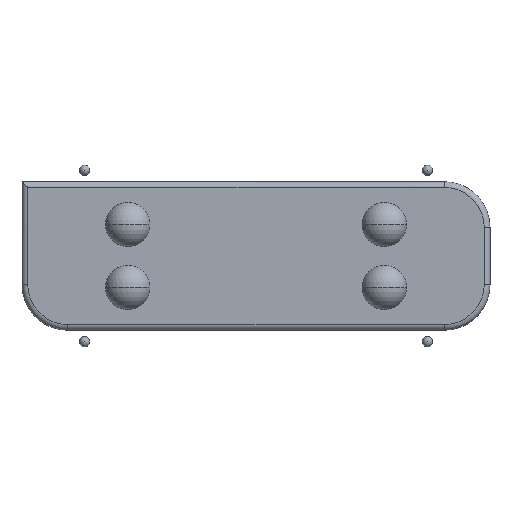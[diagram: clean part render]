
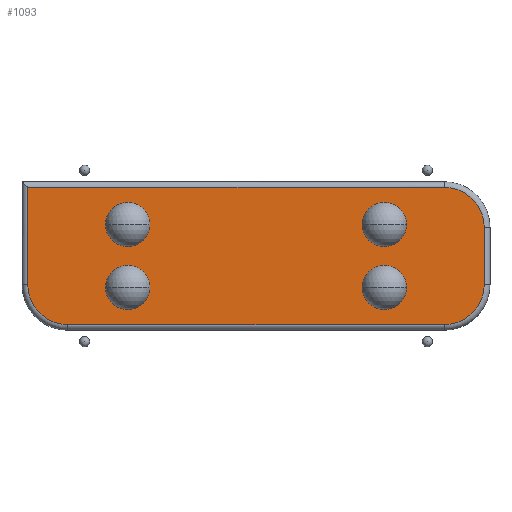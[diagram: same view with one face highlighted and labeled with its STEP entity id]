
A CAD part, front view. The second image highlights one B-rep face of the part: STEP entity #1093.
In plain terms, the highlighted planar face has unit normal (0, -1, 0).
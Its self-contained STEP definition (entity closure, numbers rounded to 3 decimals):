
#546 = CARTESIAN_POINT ( 'NONE',  ( -8.368, 0.762, -3.046 ) ) ;
#547 = VERTEX_POINT ( 'NONE', #546 ) ;
#563 = CARTESIAN_POINT ( 'NONE',  ( 8.368, 0.762, -3.046 ) ) ;
#564 = VERTEX_POINT ( 'NONE', #563 ) ;
#572 = CARTESIAN_POINT ( 'NONE',  ( -10.4, 0.762, -3.046 ) ) ;
#573 = DIRECTION ( 'NONE',  ( 1., 0., 0. ) ) ;
#574 = VECTOR ( 'NONE', #573, 1000. ) ;
#575 = LINE ( 'NONE', #572, #574 ) ;
#576 = EDGE_CURVE ( 'NONE', #547, #564, #575, .T. ) ;
#730 = CARTESIAN_POINT ( 'NONE',  ( 6.685, 0.762, 1.399 ) ) ;
#731 = VERTEX_POINT ( 'NONE', #730 ) ;
#739 = CARTESIAN_POINT ( 'NONE',  ( 4.717, 0.762, 1.399 ) ) ;
#740 = VERTEX_POINT ( 'NONE', #739 ) ;
#748 = CARTESIAN_POINT ( 'NONE',  ( 5.701, 0.762, 1.399 ) ) ;
#749 = DIRECTION ( 'NONE',  ( 0., -1., 0. ) ) ;
#750 = DIRECTION ( 'NONE',  ( 0., 0., 1. ) ) ;
#751 = AXIS2_PLACEMENT_3D ( 'NONE', #748, #749, #750 ) ;
#752 = CIRCLE ( 'NONE', #751, 0.984) ;
#753 = EDGE_CURVE ( 'NONE', #740, #731, #752, .T. ) ;
#882 = CARTESIAN_POINT ( 'NONE',  ( 5.701, 0.762, 1.399 ) ) ;
#883 = DIRECTION ( 'NONE',  ( 0., -1., 0. ) ) ;
#884 = DIRECTION ( 'NONE',  ( 0., 0., 1. ) ) ;
#885 = AXIS2_PLACEMENT_3D ( 'NONE', #882, #883, #884 ) ;
#886 = CIRCLE ( 'NONE', #885, 0.984) ;
#887 = EDGE_CURVE ( 'NONE', #731, #740, #886, .T. ) ;
#899 = CARTESIAN_POINT ( 'NONE',  ( -4.717, 0.762, 1.399 ) ) ;
#900 = VERTEX_POINT ( 'NONE', #899 ) ;
#908 = CARTESIAN_POINT ( 'NONE',  ( -6.685, 0.762, 1.399 ) ) ;
#909 = VERTEX_POINT ( 'NONE', #908 ) ;
#917 = CARTESIAN_POINT ( 'NONE',  ( -5.701, 0.762, 1.399 ) ) ;
#918 = DIRECTION ( 'NONE',  ( 0., -1., 0. ) ) ;
#919 = DIRECTION ( 'NONE',  ( 0., 0., 1. ) ) ;
#920 = AXIS2_PLACEMENT_3D ( 'NONE', #917, #918, #919 ) ;
#921 = CIRCLE ( 'NONE', #920, 0.984) ;
#922 = EDGE_CURVE ( 'NONE', #909, #900, #921, .T. ) ;
#934 = CARTESIAN_POINT ( 'NONE',  ( 4.717, 0.762, -1.399 ) ) ;
#935 = VERTEX_POINT ( 'NONE', #934 ) ;
#943 = CARTESIAN_POINT ( 'NONE',  ( 6.685, 0.762, -1.399 ) ) ;
#944 = VERTEX_POINT ( 'NONE', #943 ) ;
#952 = CARTESIAN_POINT ( 'NONE',  ( 5.701, 0.762, -1.399 ) ) ;
#953 = DIRECTION ( 'NONE',  ( 0., -1., 0. ) ) ;
#954 = DIRECTION ( 'NONE',  ( 0., 0., 1. ) ) ;
#955 = AXIS2_PLACEMENT_3D ( 'NONE', #952, #953, #954 ) ;
#956 = CIRCLE ( 'NONE', #955, 0.984) ;
#957 = EDGE_CURVE ( 'NONE', #944, #935, #956, .T. ) ;
#969 = CARTESIAN_POINT ( 'NONE',  ( -4.717, 0.762, -1.399 ) ) ;
#970 = VERTEX_POINT ( 'NONE', #969 ) ;
#978 = CARTESIAN_POINT ( 'NONE',  ( -6.685, 0.762, -1.399 ) ) ;
#979 = VERTEX_POINT ( 'NONE', #978 ) ;
#987 = CARTESIAN_POINT ( 'NONE',  ( -5.701, 0.762, -1.399 ) ) ;
#988 = DIRECTION ( 'NONE',  ( 0., -1., 0. ) ) ;
#989 = DIRECTION ( 'NONE',  ( 0., 0., 1. ) ) ;
#990 = AXIS2_PLACEMENT_3D ( 'NONE', #987, #988, #989 ) ;
#991 = CIRCLE ( 'NONE', #990, 0.984) ;
#992 = EDGE_CURVE ( 'NONE', #979, #970, #991, .T. ) ;
#1002 = CARTESIAN_POINT ( 'NONE',  ( -5.701, 0.762, 1.399 ) ) ;
#1003 = DIRECTION ( 'NONE',  ( 0., -1., 0. ) ) ;
#1004 = DIRECTION ( 'NONE',  ( 0., 0., 1. ) ) ;
#1005 = AXIS2_PLACEMENT_3D ( 'NONE', #1002, #1003, #1004 ) ;
#1006 = CIRCLE ( 'NONE', #1005, 0.984) ;
#1007 = EDGE_CURVE ( 'NONE', #900, #909, #1006, .T. ) ;
#1008 = ORIENTED_EDGE ( 'NONE', *, *, #1007, .F. ) ;
#1009 = ORIENTED_EDGE ( 'NONE', *, *, #922, .F. ) ;
#1010 = EDGE_LOOP ( 'NONE', ( #1008, #1009 ) ) ;
#1011 = FACE_BOUND ( 'NONE', #1010, .T. ) ;
#1012 = CARTESIAN_POINT ( 'NONE',  ( -5.701, 0.762, -1.399 ) ) ;
#1013 = DIRECTION ( 'NONE',  ( 0., -1., 0. ) ) ;
#1014 = DIRECTION ( 'NONE',  ( 0., 0., 1. ) ) ;
#1015 = AXIS2_PLACEMENT_3D ( 'NONE', #1012, #1013, #1014 ) ;
#1016 = CIRCLE ( 'NONE', #1015, 0.984) ;
#1017 = EDGE_CURVE ( 'NONE', #970, #979, #1016, .T. ) ;
#1018 = ORIENTED_EDGE ( 'NONE', *, *, #1017, .F. ) ;
#1019 = ORIENTED_EDGE ( 'NONE', *, *, #992, .F. ) ;
#1020 = EDGE_LOOP ( 'NONE', ( #1018, #1019 ) ) ;
#1021 = FACE_BOUND ( 'NONE', #1020, .T. ) ;
#1022 = CARTESIAN_POINT ( 'NONE',  ( 10.146, 0.762, 1.268 ) ) ;
#1023 = VERTEX_POINT ( 'NONE', #1022 ) ;
#1024 = CARTESIAN_POINT ( 'NONE',  ( 8.368, 0.762, 3.046 ) ) ;
#1025 = VERTEX_POINT ( 'NONE', #1024 ) ;
#1026 = CARTESIAN_POINT ( 'NONE',  ( 8.368, 0.762, 1.268 ) ) ;
#1027 = DIRECTION ( 'NONE',  ( 0., -1., 0. ) ) ;
#1028 = DIRECTION ( 'NONE',  ( 0., 0., 1. ) ) ;
#1029 = AXIS2_PLACEMENT_3D ( 'NONE', #1026, #1027, #1028 ) ;
#1030 = CIRCLE ( 'NONE', #1029, 1.778) ;
#1031 = EDGE_CURVE ( 'NONE', #1023, #1025, #1030, .T. ) ;
#1032 = ORIENTED_EDGE ( 'NONE', *, *, #1031, .T. ) ;
#1033 = CARTESIAN_POINT ( 'NONE',  ( -10.146, 0.762, 3.046 ) ) ;
#1034 = VERTEX_POINT ( 'NONE', #1033 ) ;
#1035 = CARTESIAN_POINT ( 'NONE',  ( -10.4, 0.762, 3.046 ) ) ;
#1036 = DIRECTION ( 'NONE',  ( -1., 0., 0. ) ) ;
#1037 = VECTOR ( 'NONE', #1036, 1000. ) ;
#1038 = LINE ( 'NONE', #1035, #1037 ) ;
#1039 = EDGE_CURVE ( 'NONE', #1025, #1034, #1038, .T. ) ;
#1040 = ORIENTED_EDGE ( 'NONE', *, *, #1039, .T. ) ;
#1041 = CARTESIAN_POINT ( 'NONE',  ( -10.146, 0.762, -1.268 ) ) ;
#1042 = VERTEX_POINT ( 'NONE', #1041 ) ;
#1043 = CARTESIAN_POINT ( 'NONE',  ( -10.146, 0.762, 3.3 ) ) ;
#1044 = DIRECTION ( 'NONE',  ( 0., 0., -1. ) ) ;
#1045 = VECTOR ( 'NONE', #1044, 1000. ) ;
#1046 = LINE ( 'NONE', #1043, #1045 ) ;
#1047 = EDGE_CURVE ( 'NONE', #1034, #1042, #1046, .T. ) ;
#1048 = ORIENTED_EDGE ( 'NONE', *, *, #1047, .T. ) ;
#1049 = CARTESIAN_POINT ( 'NONE',  ( -8.368, 0.762, -1.268 ) ) ;
#1050 = DIRECTION ( 'NONE',  ( 0., -1., 0. ) ) ;
#1051 = DIRECTION ( 'NONE',  ( 0., 0., 1. ) ) ;
#1052 = AXIS2_PLACEMENT_3D ( 'NONE', #1049, #1050, #1051 ) ;
#1053 = CIRCLE ( 'NONE', #1052, 1.778) ;
#1054 = EDGE_CURVE ( 'NONE', #1042, #547, #1053, .T. ) ;
#1055 = ORIENTED_EDGE ( 'NONE', *, *, #1054, .T. ) ;
#1056 = ORIENTED_EDGE ( 'NONE', *, *, #576, .T. ) ;
#1057 = CARTESIAN_POINT ( 'NONE',  ( 10.146, 0.762, -1.268 ) ) ;
#1058 = VERTEX_POINT ( 'NONE', #1057 ) ;
#1059 = CARTESIAN_POINT ( 'NONE',  ( 8.368, 0.762, -1.268 ) ) ;
#1060 = DIRECTION ( 'NONE',  ( 0., -1., 0. ) ) ;
#1061 = DIRECTION ( 'NONE',  ( 0., 0., 1. ) ) ;
#1062 = AXIS2_PLACEMENT_3D ( 'NONE', #1059, #1060, #1061 ) ;
#1063 = CIRCLE ( 'NONE', #1062, 1.778) ;
#1064 = EDGE_CURVE ( 'NONE', #564, #1058, #1063, .T. ) ;
#1065 = ORIENTED_EDGE ( 'NONE', *, *, #1064, .T. ) ;
#1066 = CARTESIAN_POINT ( 'NONE',  ( 10.146, 0.762, 3.3 ) ) ;
#1067 = DIRECTION ( 'NONE',  ( 0., 0., 1. ) ) ;
#1068 = VECTOR ( 'NONE', #1067, 1000. ) ;
#1069 = LINE ( 'NONE', #1066, #1068 ) ;
#1070 = EDGE_CURVE ( 'NONE', #1058, #1023, #1069, .T. ) ;
#1071 = ORIENTED_EDGE ( 'NONE', *, *, #1070, .T. ) ;
#1072 = EDGE_LOOP ( 'NONE', ( #1032, #1040, #1048, #1055, #1056, #1065, #1071 ) ) ;
#1073 = FACE_OUTER_BOUND ( 'NONE', #1072, .T. ) ;
#1074 = CARTESIAN_POINT ( 'NONE',  ( 5.701, 0.762, -1.399 ) ) ;
#1075 = DIRECTION ( 'NONE',  ( 0., -1., 0. ) ) ;
#1076 = DIRECTION ( 'NONE',  ( 0., 0., 1. ) ) ;
#1077 = AXIS2_PLACEMENT_3D ( 'NONE', #1074, #1075, #1076 ) ;
#1078 = CIRCLE ( 'NONE', #1077, 0.984) ;
#1079 = EDGE_CURVE ( 'NONE', #935, #944, #1078, .T. ) ;
#1080 = ORIENTED_EDGE ( 'NONE', *, *, #1079, .F. ) ;
#1081 = ORIENTED_EDGE ( 'NONE', *, *, #957, .F. ) ;
#1082 = EDGE_LOOP ( 'NONE', ( #1080, #1081 ) ) ;
#1083 = FACE_BOUND ( 'NONE', #1082, .T. ) ;
#1084 = ORIENTED_EDGE ( 'NONE', *, *, #753, .F. ) ;
#1085 = ORIENTED_EDGE ( 'NONE', *, *, #887, .F. ) ;
#1086 = EDGE_LOOP ( 'NONE', ( #1084, #1085 ) ) ;
#1087 = FACE_BOUND ( 'NONE', #1086, .T. ) ;
#1088 = CARTESIAN_POINT ( 'NONE',  ( -10.4, 0.762, 3.3 ) ) ;
#1089 = DIRECTION ( 'NONE',  ( 0., 1., 0. ) ) ;
#1090 = DIRECTION ( 'NONE',  ( 0., 0., 1. ) ) ;
#1091 = AXIS2_PLACEMENT_3D ( 'NONE', #1088, #1089, #1090 ) ;
#1092 = PLANE ( 'NONE', #1091 ) ;
#1093 = ADVANCED_FACE ( 'NONE', ( #1011, #1021, #1073, #1083, #1087 ), #1092, .F. ) ;
